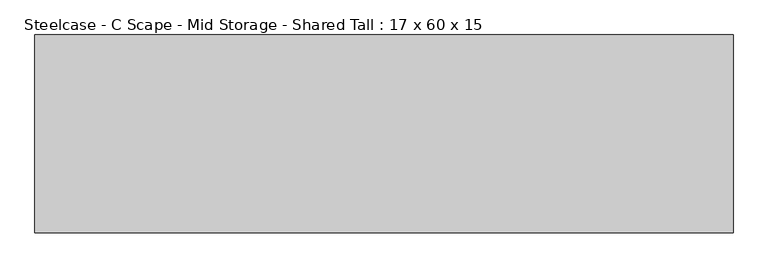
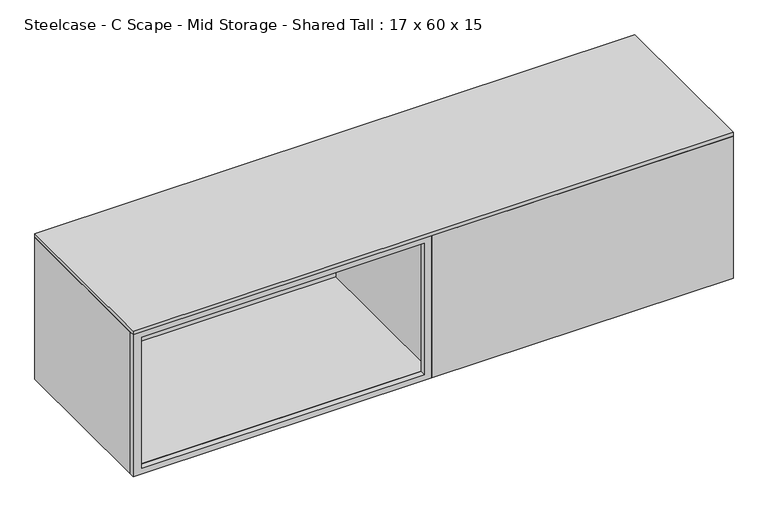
"""IFC4 building model written with IfcOpenShell, lengths in millimetres: furniture geometry, Steelcase - C Scape - Mid Storage - Shared Tall : 17 x 60 x 15."""

from ifc_helpers import new_model, si_unit, frame, origin, place, context, project, spatial, polyline, outline, extrude, faceted_brep, source, transform, mapped, element, save


def steelcase_c_scape_mid_storage_shared_tall_17_x_60_x_15_8bb42454(model_context):
    return source(origin(), model_context, "Body", "SolidModel", [
        faceted_brep([(765.175, 215.9, 1219.279375), (0.0, 215.9, 1219.279375), (0.0, -201.2949309, 1219.279375), (21.9711633, -201.2949309, 1219.279375), (21.9711633, 206.3755809, 1219.279375), (758.825, 206.3755809, 1219.279375), (758.825, -215.9, 1219.279375), (1524.0, -215.9, 1219.279375), (1524.0, 206.3755809, 1219.279375), (1501.902, 206.3755809, 1219.279375), (1501.902, -201.2949309, 1219.279375), (765.175, -201.2949309, 1219.279375), (1524.0, 206.3755809, 838.2), (1524.0, -215.9, 838.2), (758.825, -215.9, 838.2), (758.825, -201.2949309, 838.2), (0.0, -201.2949309, 838.2), (0.0, 215.9, 838.2), (765.175, 215.9, 838.2), (765.175, 206.3755809, 838.2), (758.825, -201.2949309, 853.4399855), (21.9711633, -201.2949309, 853.4399855), (21.9711633, 206.3755809, 853.4399855), (758.825, 206.3755809, 853.4399855), (765.175, 206.3755809, 853.4399855), (1501.902, 206.3755809, 853.4399855), (1501.902, -201.2949309, 853.4399855), (765.175, -201.2949309, 853.4399855)], [[[0, 1, 2, 3, 4, 5, 6, 7, 8, 9, 10, 11]], [[12, 13, 14, 15, 16, 17, 18, 19]], [[1, 0, 18, 17]], [[2, 1, 17, 16]], [[3, 2, 16, 15, 20, 21]], [[4, 3, 21, 22]], [[5, 4, 22, 23]], [[6, 5, 23, 20, 15, 14]], [[7, 6, 14, 13]], [[8, 7, 13, 12]], [[9, 8, 12, 19, 24, 25]], [[10, 9, 25, 26]], [[11, 10, 26, 27]], [[0, 11, 27, 24, 19, 18]], [[21, 20, 23, 22]], [[25, 24, 27, 26]]]),
        extrude(outline(polyline([(1219.279375, 1524.0), (1219.279375, 765.175), (838.2, 765.175), (838.2, 1524.0), (1219.279375, 1524.0)]), holes=[polyline([(1205.8427824, 1501.902), (853.4399855, 1501.902), (853.4399855, 784.098), (1205.8427824, 784.098), (1205.8427824, 1501.902)])]), frame((0.0, 206.3755809, 0.0), z_axis=(0.0, 1.0, 0.0), x_axis=(0.0, 0.0, 1.0)), (0.0, 0.0, 1.0), 9.5244191),
        extrude(outline(polyline([(1219.279375, 758.825), (1219.279375, 0.0), (838.2, 0.0), (838.2, 758.825), (1219.279375, 758.825)]), holes=[polyline([(1205.8427824, 739.902), (853.4399855, 739.902), (853.4399855, 21.9711633), (1205.8427824, 21.9711633), (1205.8427824, 739.902)])]), frame((0.0, -215.9, 0.0), z_axis=(0.0, 1.0, 0.0), x_axis=(0.0, 0.0, 1.0)), (0.0, 0.0, 1.0), 14.6050691),
        extrude(outline(polyline([(1524.0, -215.9), (0.0, -215.9), (0.0, 215.9), (1524.0, 215.9), (1524.0, -215.9)])), frame((0.0, 0.0, 1219.279375), z_axis=(0.0, 0.0, 1.0), x_axis=(1.0, 0.0, 0.0)), (0.0, 0.0, 1.0), 10.080625),
    ])


if __name__ == "__main__":
    model = new_model("IFC4")
    model_context = context("Model", 3, world=origin())
    ifc_project = project(units=[si_unit("LENGTHUNIT", "METRE", prefix="MILLI")], contexts=[model_context])
    site = spatial("IfcSite", under=ifc_project)
    building = spatial("IfcBuilding", under=site)
    placement = place(None, origin())
    steelcase_c_scape_mid_storage_shared_tall_17_x_60_x_15_shape = steelcase_c_scape_mid_storage_shared_tall_17_x_60_x_15_8bb42454(model_context)
    element("IfcFurniture", 1, ObjectType="Steelcase - C Scape - Mid Storage - Shared Tall : 17 x 60 x 15", at=placement, inside=building, context=model_context, shape_type="MappedRepresentation", body=[
        mapped(steelcase_c_scape_mid_storage_shared_tall_17_x_60_x_15_shape, transform((0.0, 0.0, 0.0), x_axis=(1.0, 0.0, 0.0), y_axis=(0.0, 1.0, 0.0), z_axis=(0.0, 0.0, 1.0))),
    ])
    save(model, "model.ifc")
